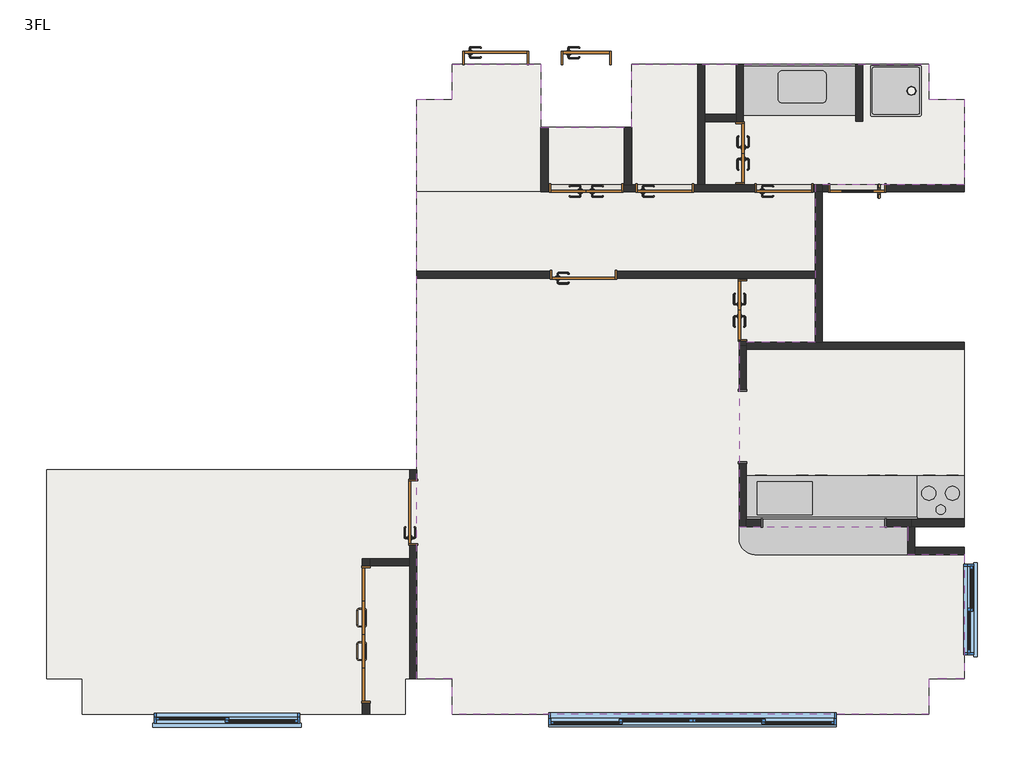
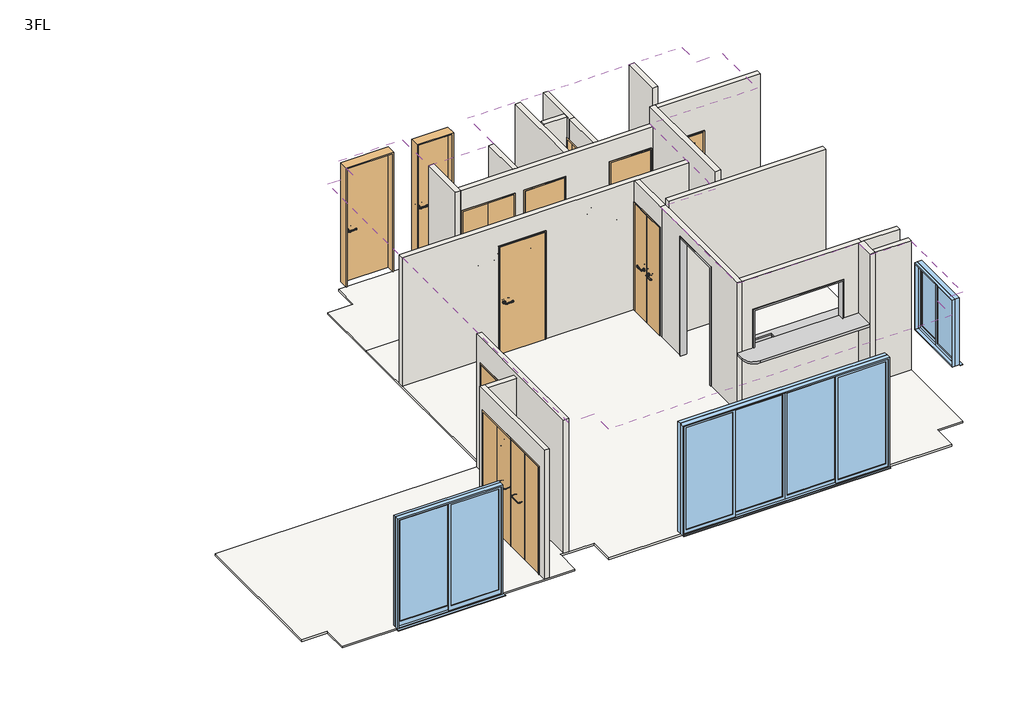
# One storey, incomplete: 21 walls, 11 doors, 4 slabs, 3 furniture elements, 3 windows, 2 flow terminals, 2 proxies, 1 covering.
"""IFC4 building model written with IfcOpenShell, lengths in millimetres."""

from ifc_helpers import new_model, si_unit, frame, origin, place, context, project, spatial, polyline, outline, extrude, faceted_brep, transform, mapped, element, save
from components import w1550h700_1b11893a, w900h2200_d33cf105, w1700h2000_7aeca4b8, w600h2200_149d3280, w700h2000_f851bcb9, w700h2000_6d93f0d2, w750h2000_bb28a540, w750h2000_6e5f9a8d, w800h2000_2b8736a8, w800h2000_587cbed2, w800h2200_05deb988, w900h2000_02bc9eed, flow_terminal_9508bbe0, flow_terminal_3a985401, furniture_17ae23b8, furniture_e3ce723a, furniture_1000mm_264b8faa, w1100h1200_97370016, w1800h2000_fa731eca, w3600_h2000_b2174b04

model = new_model("IFC4")

# Units and contexts
model_context = context("Model", 3, world=origin())
ifc_project = project(units=[si_unit("LENGTHUNIT", "METRE", prefix="MILLI")], contexts=[model_context])

# Site, building, storey
site = spatial("IfcSite", under=ifc_project)
building = spatial("IfcBuilding", under=site)
storey = spatial("IfcBuildingStorey", under=building, Name="3FL", Elevation=6575.0)

# Proxies
placement = place(None, origin())
w1550h700_shape = w1550h700_1b11893a(model_context)
element("IfcBuildingElementProxy", 1, Name="開口枠 - 鋼製 1 : W1550H700", ObjectType="開口枠 - 鋼製 1 : W1550H700", at=placement, inside=storey, context=model_context, shape_type="MappedRepresentation", body=[
    mapped(w1550h700_shape, transform((10065.0, 2500.0, 7666.8073289), x_axis=(-1.0, 0.0, 0.0), y_axis=(0.0, -1.0, 0.0), z_axis=(0.0, 0.0, 1.0))),
])
w900h2200_shape = w900h2200_d33cf105(model_context)
element("IfcBuildingElementProxy", 2, Name="開口枠 - 鋼製 1 : W900H2200", ObjectType="開口枠 - 鋼製 1 : W900H2200", at=placement, inside=storey, context=model_context, shape_type="MappedRepresentation", body=[
    mapped(w900h2200_shape, transform((8910.0, 3600.0, 6575.0), x_axis=(0.0, 1.0, 0.0), y_axis=(-1.0, 0.0, 0.0), z_axis=(0.0, 0.0, 1.0))),
])

# Covering
element("IfcCovering", 3, ObjectType="化粧石膏ボード", at=placement, inside=storey, context=model_context, shape_type="SweptSolid", body=[
    extrude(outline(polyline([(75.0, 525.0), (75.0, 3175.0), (4685.0, 3175.0), (4685.0, 525.0), (4625.0, 525.0), (4625.0, 75.0), (525.0, 75.0), (525.0, 525.0), (75.0, 525.0)])), frame((0.0, 0.0, 8975.0), z_axis=(0.0, 0.0, 1.0), x_axis=(1.0, 0.0, 0.0)), (0.0, 0.0, 1.0), 9.5),
    extrude(outline(polyline([(5225.0, 525.0), (4775.0, 525.0), (4775.0, 7875.0), (5225.0, 7875.0), (5225.0, 8325.0), (6350.0, 8325.0), (6350.0, 7525.0), (7500.0, 7525.0), (7500.0, 8325.0), (11275.0, 8325.0), (11275.0, 7875.0), (11725.0, 7875.0), (11725.0, 6795.0), (9830.0, 6795.0), (9830.0, 4795.0), (8865.0, 4795.0), (8865.0, 2455.0), (11005.0, 2455.0), (11005.0, 2100.0), (11725.0, 2100.0), (11725.0, 525.0), (11275.0, 525.0), (11275.0, 75.0), (5225.0, 75.0), (5225.0, 525.0)])), frame((0.0, 0.0, 8975.0), z_axis=(0.0, 0.0, 1.0), x_axis=(1.0, 0.0, 0.0)), (0.0, 0.0, 1.0), 9.5),
    extrude(outline(polyline([(11725.0, 2545.0), (8955.0, 2545.0), (8955.0, 4705.0), (11725.0, 4705.0), (11725.0, 2545.0)])), frame((0.0, 0.0, 8975.0), z_axis=(0.0, 0.0, 1.0), x_axis=(1.0, 0.0, 0.0)), (0.0, 0.0, 1.0), 9.5),
])

# Doors
w1700h2000_shape = w1700h2000_7aeca4b8(model_context)
element("IfcDoor", 4, ObjectType="木製折戸 : w1700h2000", at=placement, inside=storey, context=model_context, shape_type="MappedRepresentation", body=[
    mapped(w1700h2000_shape, transform((4130.0, 1085.0, 6575.0), x_axis=(0.0, 1.0, 0.0), y_axis=(-1.0, 0.0, 0.0), z_axis=(0.0, 0.0, 1.0))),
])
w600h2200_shape = w600h2200_149d3280(model_context)
element("IfcDoor", 5, ObjectType="片開き : w600h2200", at=placement, inside=storey, context=model_context, shape_type="MappedRepresentation", body=[
    mapped(w600h2200_shape, transform((6925.0, 8400.0, 6575.0), x_axis=(1.0, 0.0, 0.0), y_axis=(0.0, 1.0, 0.0), z_axis=(0.0, 0.0, 1.0))),
])
w700h2000_shape = w700h2000_f851bcb9(model_context)
element("IfcDoor", 6, ObjectType="片開き : w700h2000", at=placement, inside=storey, context=model_context, shape_type="MappedRepresentation", body=[
    mapped(w700h2000_shape, transform((7920.0, 6750.0, 6575.0), x_axis=(1.0, 0.0, 0.0), y_axis=(0.0, 1.0, 0.0), z_axis=(0.0, 0.0, 1.0))),
])
element("IfcDoor", 7, ObjectType="片開き : w700h2000", at=placement, inside=storey, context=model_context, shape_type="MappedRepresentation", body=[
    mapped(w700h2000_shape, transform((9435.0, 6750.0, 6575.0), x_axis=(1.0, 0.0, 0.0), y_axis=(0.0, 1.0, 0.0), z_axis=(0.0, 0.0, 1.0))),
])
w700h2000_2_shape = w700h2000_6d93f0d2(model_context)
element("IfcDoor", 8, ObjectType="片開き_ガラス四方框 : w700h2000", at=placement, inside=storey, context=model_context, shape_type="MappedRepresentation", body=[
    mapped(w700h2000_2_shape, transform((10365.0, 6750.0, 6575.0), x_axis=(-1.0, 0.0, 0.0), y_axis=(0.0, -1.0, 0.0), z_axis=(0.0, 0.0, 1.0))),
])
w750h2000_shape = w750h2000_bb28a540(model_context)
w750h2000_2_shape = w750h2000_6e5f9a8d(model_context)
element("IfcDoor", 9, ObjectType="両開き : w750h2000", at=placement, inside=storey, context=model_context, shape_type="MappedRepresentation", body=[
    mapped(w750h2000_shape, transform((8910.0, 5200.0, 6575.0), x_axis=(0.0, 1.0, 0.0), y_axis=(-1.0, 0.0, 0.0), z_axis=(0.0, 0.0, 1.0))),
    mapped(w750h2000_2_shape, transform((8910.0, 5200.0, 6575.0), x_axis=(0.0, 1.0, 0.0), y_axis=(-1.0, 0.0, 0.0), z_axis=(0.0, 0.0, 1.0))),
])
element("IfcDoor", 10, ObjectType="両開き : w750h2000", at=placement, inside=storey, context=model_context, shape_type="MappedRepresentation", body=[
    mapped(w750h2000_shape, transform((8875.0, 7195.0, 6575.0), x_axis=(0.0, -1.0, 0.0), y_axis=(1.0, 0.0, 0.0), z_axis=(0.0, 0.0, 1.0))),
    mapped(w750h2000_2_shape, transform((8875.0, 7195.0, 6575.0), x_axis=(0.0, -1.0, 0.0), y_axis=(1.0, 0.0, 0.0), z_axis=(0.0, 0.0, 1.0))),
])
w800h2000_shape = w800h2000_2b8736a8(model_context)
element("IfcDoor", 11, ObjectType="片開き : w800h2000", at=placement, inside=storey, context=model_context, shape_type="MappedRepresentation", body=[
    mapped(w800h2000_shape, transform((6890.0, 5650.0, 6575.0), x_axis=(1.0, 0.0, 0.0), y_axis=(0.0, 1.0, 0.0), z_axis=(0.0, 0.0, 1.0))),
])
w800h2000_2_shape = w800h2000_587cbed2(model_context)
element("IfcDoor", 12, ObjectType="片開き : w800h2000", at=placement, inside=storey, context=model_context, shape_type="MappedRepresentation", body=[
    mapped(w800h2000_2_shape, transform((4730.0, 2635.0, 6575.0), x_axis=(0.0, 1.0, 0.0), y_axis=(-1.0, 0.0, 0.0), z_axis=(0.0, 0.0, 1.0))),
])
w800h2200_shape = w800h2200_05deb988(model_context)
element("IfcDoor", 13, ObjectType="片開き : w800h2200", at=placement, inside=storey, context=model_context, shape_type="MappedRepresentation", body=[
    mapped(w800h2200_shape, transform((5775.0, 8400.0, 6575.0), x_axis=(1.0, 0.0, 0.0), y_axis=(0.0, 1.0, 0.0), z_axis=(0.0, 0.0, 1.0))),
])
w900h2000_shape = w900h2000_02bc9eed(model_context)
element("IfcDoor", 14, ObjectType="両開き : w900h2000", at=placement, inside=storey, context=model_context, shape_type="MappedRepresentation", body=[
    mapped(w750h2000_shape, transform((6925.0, 6750.0, 6575.0), x_axis=(-1.0, 0.0, 0.0), y_axis=(0.0, -1.0, 0.0), z_axis=(0.0, 0.0, 1.0))),
    mapped(w900h2000_shape, transform((6925.0, 6750.0, 6575.0), x_axis=(-1.0, 0.0, 0.0), y_axis=(0.0, -1.0, 0.0), z_axis=(0.0, 0.0, 1.0))),
])

# Flow terminals
flow_terminal_shape = flow_terminal_9508bbe0(model_context)
element("IfcFlowTerminal", 15, ObjectType="洗濯機パン : 洗濯機パン", at=placement, inside=storey, context=model_context, shape_type="MappedRepresentation", body=[
    mapped(flow_terminal_shape, transform((10855.0, 7985.0, 6575.0), x_axis=(1.0, 0.0, 0.0), y_axis=(0.0, 1.0, 0.0), z_axis=(0.0, 0.0, 1.0))),
])
flow_terminal_2_shape = flow_terminal_3a985401(model_context)
element("IfcFlowTerminal", 16, ObjectType="システムキッチンIH\u3000W2770 : システムキッチンIH\u3000W2770", at=placement, inside=storey, context=model_context, shape_type="MappedRepresentation", body=[
    mapped(flow_terminal_2_shape, transform((11725.0, 2545.0, 6575.0), x_axis=(1.0, 0.0, 0.0), y_axis=(0.0, 1.0, 0.0), z_axis=(0.0, 0.0, 1.0))),
])

# Furniture
furniture_shape = furniture_17ae23b8(model_context)
element("IfcFurniture", 17, ObjectType="キッチンカウンター : キッチンカウンター", at=placement, inside=storey, context=model_context, shape_type="MappedRepresentation", body=[
    mapped(furniture_shape, transform((11005.0, 2545.0, 6575.0), x_axis=(1.0, 0.0, 0.0), y_axis=(0.0, 1.0, 0.0), z_axis=(0.0, 0.0, 1.0))),
])
furniture_2_shape = furniture_e3ce723a(model_context)
element("IfcFurniture", 18, ObjectType="洗面カウンタ 正方形 シンク開口 - 3D : 奥行き 650 mm", at=placement, inside=storey, context=model_context, shape_type="MappedRepresentation", body=[
    mapped(furniture_2_shape, transform((10120.4622951, 8325.0, 6575.0), x_axis=(1.0, 0.0, 0.0), y_axis=(0.0, 1.0, 0.0), z_axis=(0.0, 0.0, 1.0))),
])
furniture_1000mm_shape = furniture_1000mm_264b8faa(model_context)
element("IfcFurniture", 19, ObjectType="化粧台 - 両開きドア シンク ユニット - 3D : 1000mm", at=placement, inside=storey, context=model_context, shape_type="MappedRepresentation", body=[
    mapped(furniture_1000mm_shape, transform((9613.7622951, 8325.0, 6575.0), x_axis=(1.0, 0.0, 0.0), y_axis=(0.0, 1.0, 0.0), z_axis=(0.0, 0.0, 1.0))),
])

# Slabs
element("IfcSlab", 20, ObjectType="磁器タイル", at=placement, inside=storey, context=model_context, shape_type="SweptSolid", body=[
    extrude(outline(polyline([(5225.0, 7875.0), (5225.0, 8325.0), (6350.0, 8325.0), (6350.0, 6705.0), (4775.0, 6705.0), (4775.0, 7875.0), (5225.0, 7875.0)])), frame((0.0, 0.0, 6540.0), z_axis=(0.0, 0.0, 1.0), x_axis=(1.0, 0.0, 0.0)), (0.0, 0.0, 1.0), 35.0),
])
element("IfcSlab", 21, ObjectType="フローリング", at=placement, inside=storey, context=model_context, shape_type="SweptSolid", body=[
    extrude(outline(polyline([(4775.0, 3175.0), (4775.0, 6705.0), (6440.0, 6705.0), (6440.0, 7525.0), (7410.0, 7525.0), (7410.0, 6705.0), (7500.0, 6705.0), (7500.0, 8325.0), (8340.0, 8325.0), (8340.0, 6705.0), (9830.0, 6705.0), (9830.0, 4705.0), (11725.0, 4705.0), (11725.0, 2545.0), (11005.0, 2545.0), (11005.0, 2100.0), (11725.0, 2100.0), (11725.0, 525.0), (11275.0, 525.0), (11275.0, 75.0), (5225.0, 75.0), (5225.0, 525.0), (4625.0, 525.0), (4625.0, 75.0), (525.0, 75.0), (525.0, 525.0), (75.0, 525.0), (75.0, 3175.0), (4775.0, 3175.0)])), frame((0.0, 0.0, 6540.0), z_axis=(0.0, 0.0, 1.0), x_axis=(1.0, 0.0, 0.0)), (0.0, 0.0, 1.0), 35.0),
])
element("IfcSlab", 22, ObjectType="クッションフロアシート", at=placement, inside=storey, context=model_context, shape_type="SweptSolid", body=[
    extrude(outline(polyline([(11275.0, 8325.0), (11275.0, 7875.0), (11725.0, 7875.0), (11725.0, 6795.0), (8430.0, 6795.0), (8430.0, 7685.0), (8830.0, 7685.0), (8830.0, 8325.0), (11275.0, 8325.0)])), frame((0.0, 0.0, 6360.0), z_axis=(0.0, 0.0, 1.0), x_axis=(1.0, 0.0, 0.0)), (0.0, 0.0, 1.0), 215.0),
])
element("IfcSlab", 23, ObjectType="防水モルタル", at=placement, inside=storey, context=model_context, shape_type="SweptSolid", body=[
    extrude(outline(polyline([(8830.0, 8325.0), (8830.0, 7685.0), (8430.0, 7685.0), (8430.0, 8325.0), (8830.0, 8325.0)])), frame((0.0, 0.0, 6540.0), z_axis=(0.0, 0.0, 1.0), x_axis=(1.0, 0.0, 0.0)), (0.0, 0.0, 1.0), 35.0),
])

# Walls
element("IfcWall", 24, ObjectType="標準-90mm", at=placement, inside=storey, context=model_context, shape_type="Brep", body=[
    faceted_brep([(4685.0, 3055.0, 6575.0), (4685.0, 3055.0, 8595.0), (4685.0, 2215.0, 8595.0), (4685.0, 2215.0, 6575.0), (4685.0, 2045.0, 6575.0), (4685.0, 1955.0, 6575.0), (4685.0, 525.0, 6575.0), (4685.0, 525.0, 9060.0), (4685.0, 3175.0, 9060.0), (4685.0, 3175.0, 6575.0), (4775.0, 3055.0, 8595.0), (4775.0, 3055.0, 6575.0), (4775.0, 3175.0, 6575.0), (4775.0, 3175.0, 9060.0), (4775.0, 525.0, 9060.0), (4775.0, 525.0, 6575.0), (4775.0, 2215.0, 6575.0), (4775.0, 2215.0, 8595.0)], [[[0, 1, 2, 3, 4, 5, 6, 7, 8, 9]], [[10, 11, 12, 13, 14, 15, 16, 17]], [[11, 0, 9, 12]], [[3, 16, 15, 6, 5, 4]], [[13, 8, 7, 14]], [[11, 10, 1, 0]], [[17, 16, 3, 2]], [[10, 17, 2, 1]], [[9, 8, 13, 12]], [[7, 6, 15, 14]]]),
])
element("IfcWall", 25, ObjectType="標準-90mm", at=placement, inside=storey, context=model_context, shape_type="Brep", body=[
    faceted_brep([(4175.0, 75.0, 6575.0), (4175.0, 215.0, 6575.0), (4175.0, 215.0, 8595.0), (4175.0, 1955.0, 8595.0), (4175.0, 1955.0, 6575.0), (4175.0, 2045.0, 6575.0), (4175.0, 2045.0, 8975.0), (4175.0, 1955.0, 8975.0), (4175.0, 75.0, 8975.0), (4085.0, 215.0, 8595.0), (4085.0, 215.0, 6575.0), (4085.0, 75.0, 6575.0), (4085.0, 75.0, 8975.0), (4085.0, 2045.0, 8975.0), (4085.0, 2045.0, 6575.0), (4085.0, 1955.0, 6575.0), (4085.0, 1955.0, 8595.0)], [[[0, 1, 2, 3, 4, 5, 6, 7, 8]], [[9, 10, 11, 12, 13, 14, 15, 16]], [[15, 14, 5, 4]], [[11, 10, 1, 0]], [[8, 7, 6, 13, 12]], [[6, 5, 14, 13]], [[4, 3, 16, 15]], [[2, 1, 10, 9]], [[3, 2, 9, 16]], [[0, 8, 12, 11]]]),
])
element("IfcWall", 26, ObjectType="標準-90mm", at=placement, inside=storey, context=model_context, shape_type="SweptSolid", body=[
    extrude(outline(polyline([(4685.0, 1955.0), (4175.0, 1955.0), (4175.0, 2045.0), (4685.0, 2045.0), (4685.0, 1955.0)])), frame((0.0, 0.0, 6575.0), z_axis=(0.0, 0.0, 1.0), x_axis=(1.0, 0.0, 0.0)), (0.0, 0.0, 1.0), 2400.0),
])
element("IfcWall", 27, ObjectType="標準-90mm", at=placement, inside=storey, context=model_context, shape_type="Brep", body=[
    faceted_brep([(6350.0, 7525.0, 6540.0), (6350.0, 6705.0, 6540.0), (6350.0, 6705.0, 8975.0), (6350.0, 7525.0, 8975.0), (6440.0, 7525.0, 6540.0), (6440.0, 7525.0, 8975.0), (6440.0, 6795.0, 8975.0), (6440.0, 6705.0, 8975.0), (6440.0, 6705.0, 6540.0), (6440.0, 6795.0, 6540.0)], [[[0, 1, 2, 3]], [[4, 5, 6, 7, 8, 9]], [[1, 0, 4, 9, 8]], [[3, 2, 7, 6, 5]], [[2, 1, 8, 7]], [[0, 3, 5, 4]]]),
])
element("IfcWall", 28, ObjectType="標準-90mm", at=placement, inside=storey, context=model_context, shape_type="SweptSolid", body=[
    extrude(outline(polyline([(7410.0, 6795.0), (7410.0, 7525.0), (7500.0, 7525.0), (7500.0, 6795.0), (7410.0, 6795.0)])), frame((0.0, 0.0, 6575.0), z_axis=(0.0, 0.0, 1.0), x_axis=(1.0, 0.0, 0.0)), (0.0, 0.0, 1.0), 2400.0),
])
element("IfcWall", 29, ObjectType="標準-90mm", at=placement, inside=storey, context=model_context, shape_type="Brep", body=[
    faceted_brep([(6440.0, 6705.0, 6540.0), (9830.0, 6705.0, 6540.0), (9920.0, 6705.0, 6540.0), (9920.0, 6705.0, 8975.0), (9830.0, 6705.0, 8975.0), (6440.0, 6705.0, 8975.0), (6455.0, 6705.0, 8595.0), (7395.0, 6705.0, 8595.0), (7395.0, 6705.0, 6575.0), (6455.0, 6705.0, 6575.0), (8290.0, 6705.0, 8595.0), (8290.0, 6705.0, 6575.0), (7550.0, 6705.0, 6575.0), (7550.0, 6705.0, 8595.0), (9805.0, 6705.0, 8595.0), (9805.0, 6705.0, 6575.0), (9065.0, 6705.0, 6575.0), (9065.0, 6705.0, 8595.0), (6440.0, 6795.0, 6540.0), (6440.0, 6795.0, 8975.0), (7410.0, 6795.0, 8975.0), (7500.0, 6795.0, 8975.0), (8830.0, 6795.0, 8975.0), (8920.0, 6795.0, 8975.0), (9830.0, 6795.0, 8975.0), (9920.0, 6795.0, 8975.0), (9920.0, 6795.0, 6540.0), (8430.0, 6795.0, 6540.0), (8340.0, 6795.0, 6540.0), (6455.0, 6795.0, 8595.0), (6455.0, 6795.0, 6575.0), (7395.0, 6795.0, 6575.0), (7395.0, 6795.0, 8595.0), (8290.0, 6795.0, 8595.0), (7550.0, 6795.0, 8595.0), (7550.0, 6795.0, 6575.0), (8290.0, 6795.0, 6575.0), (9805.0, 6795.0, 8595.0), (9065.0, 6795.0, 8595.0), (9065.0, 6795.0, 6575.0), (9805.0, 6795.0, 6575.0)], [[[0, 1, 2, 3, 4, 5], [6, 7, 8, 9], [10, 11, 12, 13], [14, 15, 16, 17]], [[18, 19, 20, 21, 22, 23, 24, 25, 26, 27, 28], [29, 30, 31, 32], [33, 34, 35, 36], [37, 38, 39, 40]], [[2, 1, 0, 18, 28, 27, 26]], [[5, 4, 3, 25, 24, 23, 22, 21, 20, 19]], [[0, 5, 19, 18]], [[3, 2, 26, 25]], [[30, 29, 6, 9]], [[31, 30, 9, 8]], [[32, 31, 8, 7]], [[29, 32, 7, 6]], [[11, 10, 33, 36]], [[12, 11, 36, 35]], [[13, 12, 35, 34]], [[10, 13, 34, 33]], [[15, 14, 37, 40]], [[16, 15, 40, 39]], [[17, 16, 39, 38]], [[14, 17, 38, 37]]]),
])
element("IfcWall", 30, ObjectType="標準-90mm", at=placement, inside=storey, context=model_context, shape_type="SweptSolid", body=[
    extrude(outline(polyline([(8430.0, 8325.0), (8430.0, 6795.0), (8340.0, 6795.0), (8340.0, 8325.0), (8430.0, 8325.0)])), frame((0.0, 0.0, 6540.0), z_axis=(0.0, 0.0, 1.0), x_axis=(1.0, 0.0, 0.0)), (0.0, 0.0, 1.0), 2400.0),
])
element("IfcWall", 31, ObjectType="標準-90mm", at=placement, inside=storey, context=model_context, shape_type="SweptSolid", body=[
    extrude(outline(polyline([(8830.0, 7595.0), (8430.0, 7595.0), (8430.0, 7685.0), (8830.0, 7685.0), (8830.0, 7595.0)])), frame((0.0, 0.0, 6575.0), z_axis=(0.0, 0.0, 1.0), x_axis=(1.0, 0.0, 0.0)), (0.0, 0.0, 1.0), 2400.0),
])
element("IfcWall", 32, ObjectType="標準-90mm", at=placement, inside=storey, context=model_context, shape_type="Brep", body=[
    faceted_brep([(8830.0, 7525.0, 8975.0), (8830.0, 7595.0, 8975.0), (8830.0, 7685.0, 8975.0), (8830.0, 8325.0, 8975.0), (8830.0, 8325.0, 6575.0), (8830.0, 7685.0, 6575.0), (8830.0, 7595.0, 6575.0), (8830.0, 7590.0, 6575.0), (8830.0, 7590.0, 8595.0), (8830.0, 7525.0, 8595.0), (8920.0, 8325.0, 8975.0), (8920.0, 7525.0, 8975.0), (8920.0, 7525.0, 8595.0), (8920.0, 7590.0, 8595.0), (8920.0, 7590.0, 6575.0), (8920.0, 8325.0, 6575.0)], [[[0, 1, 2, 3, 4, 5, 6, 7, 8, 9]], [[10, 11, 12, 13, 14, 15]], [[4, 15, 14, 7, 6, 5]], [[11, 0, 9, 12]], [[3, 2, 1, 0, 11, 10]], [[13, 8, 7, 14]], [[8, 13, 12, 9]], [[4, 3, 10, 15]]]),
])
element("IfcWall", 33, ObjectType="標準-90mm", at=placement, inside=storey, context=model_context, shape_type="SweptSolid", body=[
    extrude(outline(polyline([(10345.0, 7600.0), (10345.0, 8325.0), (10435.0, 8325.0), (10435.0, 7600.0), (10345.0, 7600.0)])), frame((0.0, 0.0, 6575.0), z_axis=(0.0, 0.0, 1.0), x_axis=(1.0, 0.0, 0.0)), (0.0, 0.0, 1.0), 2400.0),
])
element("IfcWall", 34, ObjectType="標準-90mm", at=placement, inside=storey, context=model_context, shape_type="Brep", body=[
    faceted_brep([(11725.0, 4795.0, 6575.0), (8955.0, 4795.0, 6575.0), (8955.0, 4795.0, 8975.0), (8955.0, 4795.0, 8984.5), (8955.0, 4795.0, 9110.0), (11725.0, 4795.0, 9110.0), (11725.0, 4705.0, 6575.0), (11725.0, 4705.0, 9110.0), (8955.0, 4705.0, 9110.0), (8955.0, 4705.0, 6575.0), (8955.0, 4750.0, 6575.0)], [[[0, 1, 2, 3, 4, 5]], [[6, 7, 8, 9]], [[1, 0, 6, 9, 10]], [[5, 4, 8, 7]], [[1, 10, 9, 8, 4, 3, 2]], [[0, 5, 7, 6]]]),
])
element("IfcWall", 35, ObjectType="標準-90mm", at=placement, inside=storey, context=model_context, shape_type="Brep", body=[
    faceted_brep([(8865.0, 4805.0, 8595.0), (8865.0, 4805.0, 6575.0), (8865.0, 4750.0, 6575.0), (8865.0, 4750.0, 8975.0), (8865.0, 4795.0, 8975.0), (8865.0, 5605.0, 8975.0), (8865.0, 5605.0, 6575.0), (8865.0, 5595.0, 6575.0), (8865.0, 5595.0, 8595.0), (8955.0, 4750.0, 6575.0), (8955.0, 4795.0, 6575.0), (8955.0, 4805.0, 6575.0), (8955.0, 4805.0, 8595.0), (8955.0, 5595.0, 8595.0), (8955.0, 5595.0, 6575.0), (8955.0, 5605.0, 6575.0), (8955.0, 5605.0, 8975.0), (8955.0, 4795.0, 8975.0), (8955.0, 4750.0, 8975.0)], [[[0, 1, 2, 3, 4, 5, 6, 7, 8]], [[9, 10, 11, 12, 13, 14, 15, 16, 17, 18]], [[7, 6, 15, 14]], [[2, 1, 11, 10, 9]], [[3, 2, 9, 18]], [[5, 4, 3, 18, 17, 16]], [[6, 5, 16, 15]], [[14, 13, 8, 7]], [[12, 11, 1, 0]], [[13, 12, 0, 8]]]),
])
element("IfcWall", 36, ObjectType="標準-90mm", at=placement, inside=storey, context=model_context, shape_type="Brep", body=[
    faceted_brep([(8955.0, 2455.0, 6575.0), (11005.0, 2455.0, 6575.0), (11050.0, 2455.0, 6575.0), (11050.0, 2455.0, 8984.5), (11005.0, 2455.0, 8984.5), (8955.0, 2455.0, 8984.5), (10740.0, 2455.0, 8391.8073289), (10740.0, 2455.0, 7666.8073289), (9140.0, 2455.0, 7666.8073289), (9140.0, 2455.0, 8391.8073289), (8955.0, 2545.0, 6575.0), (8955.0, 2545.0, 8984.5), (11050.0, 2545.0, 8984.5), (11050.0, 2545.0, 6575.0), (10740.0, 2545.0, 8391.8073289), (9140.0, 2545.0, 8391.8073289), (9140.0, 2545.0, 7666.8073289), (10740.0, 2545.0, 7666.8073289)], [[[0, 1, 2, 3, 4, 5], [6, 7, 8, 9]], [[10, 11, 12, 13], [14, 15, 16, 17]], [[2, 1, 0, 10, 13]], [[3, 2, 13, 12]], [[5, 4, 3, 12, 11]], [[0, 5, 11, 10]], [[7, 6, 14, 17]], [[8, 7, 17, 16]], [[9, 8, 16, 15]], [[6, 9, 15, 14]]]),
])
element("IfcWall", 37, ObjectType="標準-90mm", at=placement, inside=storey, context=model_context, shape_type="Brep", body=[
    faceted_brep([(11005.0, 2455.0, 6575.0), (11005.0, 2100.0, 6575.0), (11005.0, 2100.0, 8984.5), (11005.0, 2455.0, 8984.5), (11095.0, 2455.0, 6575.0), (11095.0, 2455.0, 8984.5), (11095.0, 2190.0, 8984.5), (11095.0, 2100.0, 8984.5), (11095.0, 2100.0, 6575.0), (11095.0, 2190.0, 6575.0), (11050.0, 2455.0, 6575.0), (11050.0, 2455.0, 8984.5)], [[[0, 1, 2, 3]], [[4, 5, 6, 7, 8, 9]], [[1, 0, 10, 4, 9, 8]], [[3, 2, 7, 6, 5, 11]], [[2, 1, 8, 7]], [[0, 3, 11, 5, 4, 10]]]),
])
element("IfcWall", 38, ObjectType="標準-90mm", at=placement, inside=storey, context=model_context, shape_type="SweptSolid", body=[
    extrude(outline(polyline([(11725.0, 2100.0), (11095.0, 2100.0), (11095.0, 2190.0), (11725.0, 2190.0), (11725.0, 2100.0)])), frame((0.0, 0.0, 6575.0), z_axis=(0.0, 0.0, 1.0), x_axis=(1.0, 0.0, 0.0)), (0.0, 0.0, 1.0), 2409.5),
])
element("IfcWall", 39, ObjectType="標準-90mm", at=placement, inside=storey, context=model_context, shape_type="Brep", body=[
    faceted_brep([(9830.0, 6705.0, 6540.0), (9830.0, 4795.0, 6540.0), (9830.0, 4795.0, 9300.0), (9830.0, 6795.0, 9300.0), (9830.0, 6795.0, 8975.0), (9830.0, 6705.0, 8975.0), (9920.0, 6705.0, 6540.0), (9920.0, 6705.0, 8975.0), (9920.0, 6795.0, 8975.0), (9920.0, 6795.0, 9300.0), (9920.0, 6705.0, 9300.0), (9920.0, 4795.0, 9300.0), (9920.0, 4795.0, 6540.0)], [[[0, 1, 2, 3, 4, 5]], [[6, 7, 8, 9, 10, 11, 12]], [[1, 0, 6, 12]], [[3, 2, 11, 10, 9]], [[2, 1, 12, 11]], [[4, 8, 7, 5]], [[0, 5, 7, 6]], [[4, 3, 9, 8]]]),
])
element("IfcWall", 40, ObjectType="標準-90mm", at=placement, inside=storey, context=model_context, shape_type="Brep", body=[
    faceted_brep([(6470.0, 5695.0, 8595.0), (6470.0, 5695.0, 6575.0), (4775.0, 5695.0, 6575.0), (4775.0, 5695.0, 8975.0), (9830.0, 5695.0, 8975.0), (9830.0, 5695.0, 6575.0), (7310.0, 5695.0, 6575.0), (7310.0, 5695.0, 8595.0), (4775.0, 5605.0, 6575.0), (6470.0, 5605.0, 6575.0), (6470.0, 5605.0, 8595.0), (7310.0, 5605.0, 8595.0), (7310.0, 5605.0, 6575.0), (8865.0, 5605.0, 6575.0), (8955.0, 5605.0, 6575.0), (9830.0, 5605.0, 6575.0), (9830.0, 5605.0, 8975.0), (8955.0, 5605.0, 8975.0), (8865.0, 5605.0, 8975.0), (4775.0, 5605.0, 8975.0)], [[[0, 1, 2, 3, 4, 5, 6, 7]], [[8, 9, 10, 11, 12, 13, 14, 15, 16, 17, 18, 19]], [[6, 5, 15, 14, 13, 12]], [[2, 1, 9, 8]], [[4, 3, 19, 18, 17, 16]], [[5, 4, 16, 15]], [[12, 11, 7, 6]], [[10, 9, 1, 0]], [[11, 10, 0, 7]], [[3, 2, 8, 19]]]),
])
element("IfcWall", 41, ObjectType="標準-90mm", at=placement, inside=storey, context=model_context, shape_type="Brep", body=[
    faceted_brep([(9920.0, 6705.0, 6360.0), (11725.0, 6705.0, 6360.0), (11725.0, 6705.0, 9300.0), (9920.0, 6705.0, 9300.0), (9920.0, 6705.0, 8975.0), (9920.0, 6705.0, 6540.0), (9995.0, 6705.0, 8595.0), (10735.0, 6705.0, 8595.0), (10735.0, 6705.0, 6575.0), (9995.0, 6705.0, 6575.0), (9920.0, 6795.0, 6360.0), (9920.0, 6795.0, 6540.0), (9920.0, 6795.0, 8975.0), (9920.0, 6795.0, 9300.0), (11725.0, 6795.0, 9300.0), (11725.0, 6795.0, 6360.0), (9995.0, 6795.0, 8595.0), (9995.0, 6795.0, 6575.0), (10735.0, 6795.0, 6575.0), (10735.0, 6795.0, 8595.0)], [[[0, 1, 2, 3, 4, 5], [6, 7, 8, 9]], [[10, 11, 12, 13, 14, 15], [16, 17, 18, 19]], [[1, 0, 10, 15]], [[3, 2, 14, 13]], [[0, 5, 4, 3, 13, 12, 11, 10]], [[17, 16, 6, 9]], [[18, 17, 9, 8]], [[19, 18, 8, 7]], [[16, 19, 7, 6]], [[1, 15, 14, 2]]]),
])
element("IfcWall", 42, ObjectType="標準-90mm", at=placement, inside=storey, context=model_context, shape_type="SweptSolid", body=[
    extrude(outline(polyline([(6795.0, 8975.0), (7525.0, 8975.0), (7525.0, 8595.0), (6800.0, 8595.0), (6800.0, 6575.0), (6795.0, 6575.0), (6795.0, 8975.0)])), frame((8830.0, 0.0, 0.0), z_axis=(1.0, 0.0, 0.0), x_axis=(0.0, 1.0, 0.0)), (0.0, 0.0, 1.0), 90.0),
])
element("IfcWall", 43, ObjectType="標準-90mm", at=placement, inside=storey, context=model_context, shape_type="Brep", body=[
    faceted_brep([(11050.0, 2455.0, 6575.0), (11095.0, 2455.0, 6575.0), (11725.0, 2455.0, 6575.0), (11725.0, 2455.0, 8984.5), (11095.0, 2455.0, 8984.5), (11050.0, 2455.0, 8984.5), (11050.0, 2545.0, 6575.0), (11050.0, 2545.0, 8984.5), (11725.0, 2545.0, 8984.5), (11725.0, 2545.0, 6575.0)], [[[0, 1, 2, 3, 4, 5]], [[6, 7, 8, 9]], [[2, 1, 0, 6, 9]], [[5, 4, 3, 8, 7]], [[0, 5, 7, 6]], [[3, 2, 9, 8]]]),
])
element("IfcWall", 44, ObjectType="標準-90mm", at=placement, inside=storey, context=model_context, shape_type="Brep", body=[
    faceted_brep([(8865.0, 4750.0, 6575.0), (8865.0, 4200.0, 6575.0), (8865.0, 4200.0, 8800.0), (8865.0, 3250.0, 8800.0), (8865.0, 3250.0, 6575.0), (8865.0, 2455.0, 6575.0), (8865.0, 2455.0, 8984.5), (8865.0, 4795.0, 8984.5), (8865.0, 4795.0, 8975.0), (8865.0, 4750.0, 8975.0), (8955.0, 4200.0, 8800.0), (8955.0, 4200.0, 6575.0), (8955.0, 4705.0, 6575.0), (8955.0, 4750.0, 6575.0), (8955.0, 4750.0, 8975.0), (8955.0, 4795.0, 8975.0), (8955.0, 4795.0, 8984.5), (8955.0, 2545.0, 8984.5), (8955.0, 2455.0, 8984.5), (8955.0, 2455.0, 6575.0), (8955.0, 2545.0, 6575.0), (8955.0, 3250.0, 6575.0), (8955.0, 3250.0, 8800.0)], [[[0, 1, 2, 3, 4, 5, 6, 7, 8, 9]], [[10, 11, 12, 13, 14, 15, 16, 17, 18, 19, 20, 21, 22]], [[13, 12, 11, 1, 0]], [[21, 20, 19, 5, 4]], [[7, 6, 18, 17, 16]], [[6, 5, 19, 18]], [[3, 2, 10, 22]], [[2, 1, 11, 10]], [[4, 3, 22, 21]], [[0, 9, 14, 13]], [[8, 15, 14, 9]], [[8, 7, 16, 15]]]),
])

# Windows
w1100h1200_shape = w1100h1200_97370016(model_context)
element("IfcWindow", 45, ObjectType="引違い腰窓_2枚 : W1100H1200", at=placement, inside=storey, context=model_context, shape_type="MappedRepresentation", body=[
    mapped(w1100h1200_shape, transform((11800.0, 1400.0, 6625.0), x_axis=(0.0, -1.0, 0.0), y_axis=(1.0, 0.0, 0.0), z_axis=(0.0, 0.0, 1.0))),
])
w1800h2000_shape = w1800h2000_fa731eca(model_context)
element("IfcWindow", 46, ObjectType="引違い掃出窓_2枚 : W1800H2000", at=placement, inside=storey, context=model_context, shape_type="MappedRepresentation", body=[
    mapped(w1800h2000_shape, transform((2365.0, 0.0, 6660.0), x_axis=(-1.0, 0.0, 0.0), y_axis=(0.0, -1.0, 0.0), z_axis=(0.0, 0.0, 1.0))),
])
w3600_h2000_shape = w3600_h2000_b2174b04(model_context)
element("IfcWindow", 47, ObjectType="窓 - 引違い掃出 4 枚 2 溝 - 内付 : w3600 h2000", at=placement, inside=storey, context=model_context, shape_type="MappedRepresentation", body=[
    mapped(w3600_h2000_shape, transform((8275.0, 0.0, 6635.0), x_axis=(-1.0, 0.0, 0.0), y_axis=(0.0, -1.0, 0.0), z_axis=(0.0, 0.0, 1.0))),
])

save(model, "model.ifc")
